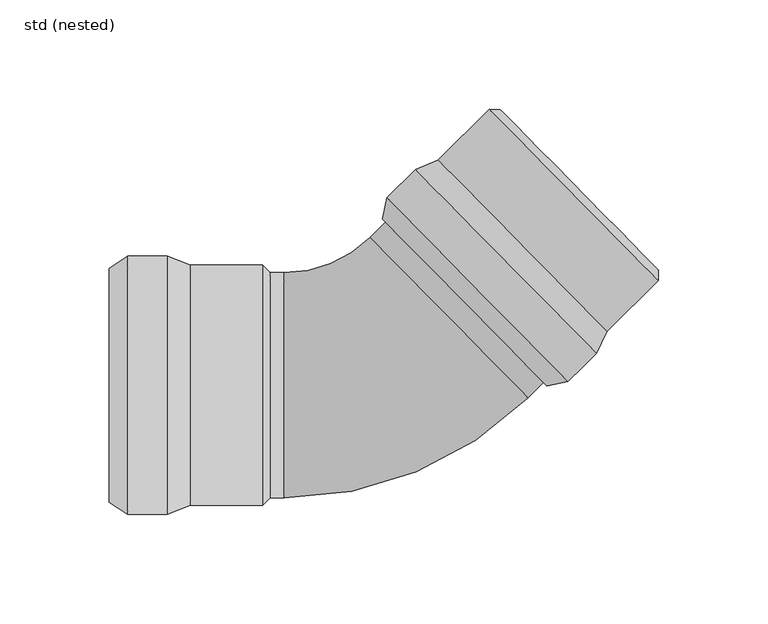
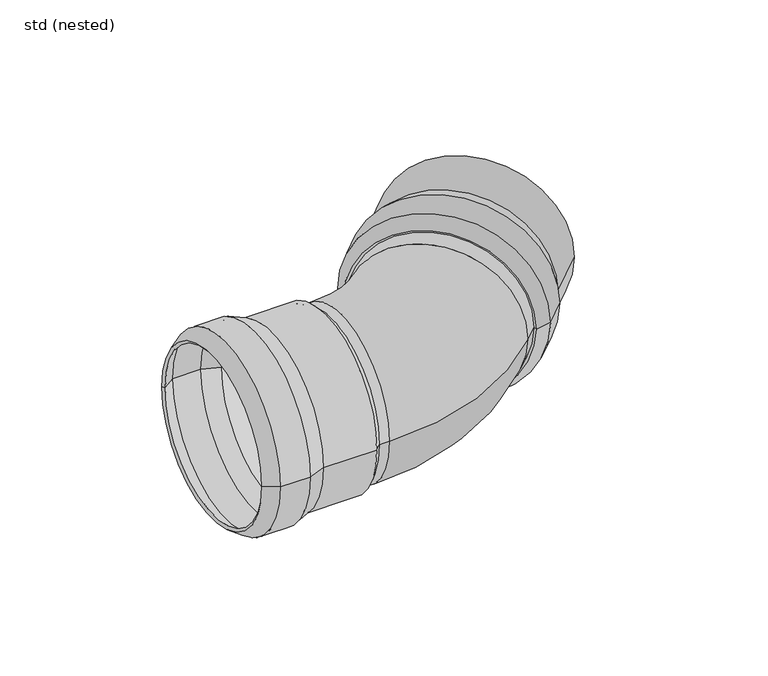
"""IFC4 building model written with IfcOpenShell, lengths in millimetres: pipe fitting geometry, ZZZ_do not use_PIF_ST_UN_GM-X pipe bend_ACO : std (nested)."""

from ifc_helpers import new_model, si_unit, point, frame, origin, place, context, project, spatial, polyline, circle_curve, ellipse_curve, trimmed, source, transform, mapped, element, save
from ifc_brep_helpers import plane_surface, cylinder_surface, revolved_surface, advanced_brep


def std_nested_b2d99228(model_context):
    return source(origin(), model_context, "Body", "AdvancedBrep", [
        advanced_brep(
        [(15.9421163, 98.5246108, 0.0), (98.7526335, 14.4626202, 0.0), (85.78714, 1.6901506, 0.0), (2.9766229, 85.7521412, 0.0), (26.2293449, 103.0437842, 0.0), (103.4255897, 24.6809117, 0.0), (76.0144928, -0.2165133, 0.0), (0.9236002, 76.00919, 0.0), (49.7382067, 126.2026577, 0.0), (126.9344514, 47.8397851, 0.0), (54.6878149, 126.1655377, 0.0), (126.9715714, 52.7893934, 0.0), (52.1944508, 123.7092935, 0.0), (124.4782073, 50.3331492, 0.0), (27.370717, 101.3607122, 0.0), (101.7598256, 25.8473987, 0.0), (125.5308833, 49.2645646, 0.0), (51.1417747, 124.7778782, 0.0), (17.0834885, 96.8415388, 0.0), (97.0868694, 15.6291072, 0.0), (4.8094141, 84.7501948, 0.0), (84.8127951, 3.5377632, 0.0), (2.8806238, 75.5968084, 0.0), (75.6315097, 1.7464752, 0.0)],
        [
            (0, 1, circle_curve(frame((57.3473749, 56.4936155, 0.0), z_axis=(-0.7123897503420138, -0.701784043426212, 0.0), x_axis=(0.7017840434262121, -0.7123897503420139, 0.0)), 59.0)),
            (1, 2),
            (2, 3, circle_curve(frame((44.3818814, 43.7211459, 0.0), z_axis=(0.7123897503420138, 0.701784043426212, 0.0), x_axis=(0.7017840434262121, -0.7123897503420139, 0.0)), 59.0)),
            (3, 0),
            (1, 0, circle_curve(frame((57.3473749, 56.4936155, 0.0), z_axis=(-0.7123897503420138, -0.701784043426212, 0.0), x_axis=(0.7017840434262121, -0.7123897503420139, 0.0)), 59.0)),
            (3, 2, circle_curve(frame((44.3818814, 43.7211459, 0.0), z_axis=(0.7123897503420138, 0.701784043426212, 0.0), x_axis=(0.7017840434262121, -0.7123897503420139, 0.0)), 59.0)),
            (4, 5, circle_curve(frame((64.8274673, 63.862348, 0.0), z_axis=(-0.7123897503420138, -0.701784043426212, 0.0), x_axis=(0.7017840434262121, -0.7123897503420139, 0.0)), 55.0)),
            (5, 1),
            (0, 4),
            (5, 4, circle_curve(frame((64.8274673, 63.862348, 0.0), z_axis=(-0.7123897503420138, -0.701784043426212, 0.0), x_axis=(0.7017840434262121, -0.7123897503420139, 0.0)), 55.0)),
            (2, 6),
            (6, 7, circle_curve(frame((38.4690465, 37.8963383, 0.0), z_axis=(0.7123897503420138, 0.701784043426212, 0.0), x_axis=(0.7017840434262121, -0.7123897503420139, 0.0)), 53.5)),
            (7, 3),
            (7, 6, circle_curve(frame((38.4690465, 37.8963383, 0.0), z_axis=(0.7123897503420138, 0.701784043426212, 0.0), x_axis=(0.7017840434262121, -0.7123897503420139, 0.0)), 53.5)),
            (8, 9, circle_curve(frame((88.336329, 87.0212214, 0.0), z_axis=(-0.7123897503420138, -0.701784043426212, 0.0), x_axis=(0.7017840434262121, -0.7123897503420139, 0.0)), 55.0)),
            (9, 5),
            (4, 8),
            (9, 8, circle_curve(frame((88.336329, 87.0212214, 0.0), z_axis=(-0.7123897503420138, -0.701784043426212, 0.0), x_axis=(0.7017840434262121, -0.7123897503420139, 0.0)), 55.0)),
            (10, 11, circle_curve(frame((90.8296932, 89.4774655, 0.0), z_axis=(-0.7123897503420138, -0.701784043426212, 0.0), x_axis=(0.7017840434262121, -0.7123897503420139, 0.0)), 51.5)),
            (11, 9),
            (8, 10),
            (11, 10, circle_curve(frame((90.8296932, 89.4774655, 0.0), z_axis=(-0.7123897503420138, -0.701784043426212, 0.0), x_axis=(0.7017840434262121, -0.7123897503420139, 0.0)), 51.5)),
            (12, 13, circle_curve(frame((88.336329, 87.0212214, 0.0), z_axis=(-0.7123897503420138, -0.701784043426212, 0.0), x_axis=(0.7017840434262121, -0.7123897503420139, 0.0)), 51.5)),
            (13, 11),
            (10, 12),
            (13, 12, circle_curve(frame((88.336329, 87.0212214, 0.0), z_axis=(-0.7123897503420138, -0.701784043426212, 0.0), x_axis=(0.7017840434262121, -0.7123897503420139, 0.0)), 51.5)),
            (14, 15, circle_curve(frame((64.5652713, 63.6040554, 0.0), z_axis=(-0.7123897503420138, -0.701784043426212, 0.0), x_axis=(0.7017840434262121, -0.7123897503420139, 0.0)), 53.0)),
            (15, 16),
            (16, 17, circle_curve(frame((88.336329, 87.0212214, 0.0), z_axis=(0.7123897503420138, 0.701784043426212, 0.0), x_axis=(0.7017840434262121, -0.7123897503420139, 0.0)), 53.0)),
            (17, 14),
            (15, 14, circle_curve(frame((64.5652713, 63.6040554, 0.0), z_axis=(-0.7123897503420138, -0.701784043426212, 0.0), x_axis=(0.7017840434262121, -0.7123897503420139, 0.0)), 53.0)),
            (17, 16, circle_curve(frame((88.336329, 87.0212214, 0.0), z_axis=(0.7123897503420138, 0.701784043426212, 0.0), x_axis=(0.7017840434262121, -0.7123897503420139, 0.0)), 53.0)),
            (18, 19, circle_curve(frame((57.085179, 56.235323, 0.0), z_axis=(-0.7123897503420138, -0.701784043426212, 0.0), x_axis=(0.7017840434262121, -0.7123897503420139, 0.0)), 57.0)),
            (19, 15),
            (14, 18),
            (19, 18, circle_curve(frame((57.085179, 56.235323, 0.0), z_axis=(-0.7123897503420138, -0.701784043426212, 0.0), x_axis=(0.7017840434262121, -0.7123897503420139, 0.0)), 57.0)),
            (20, 21, circle_curve(frame((44.8111046, 44.143979, 0.0), z_axis=(-0.7123897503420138, -0.701784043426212, 0.0), x_axis=(0.7017840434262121, -0.7123897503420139, 0.0)), 57.0)),
            (21, 19),
            (18, 20),
            (21, 20, circle_curve(frame((44.8111046, 44.143979, 0.0), z_axis=(-0.7123897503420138, -0.701784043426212, 0.0), x_axis=(0.7017840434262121, -0.7123897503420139, 0.0)), 57.0)),
            (22, 23, circle_curve(frame((39.2560667, 38.6716418, 0.0), z_axis=(-0.7123897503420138, -0.701784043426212, 0.0), x_axis=(0.7017840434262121, -0.7123897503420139, 0.0)), 51.8328156)),
            (23, 21),
            (20, 22),
            (23, 22, circle_curve(frame((39.2560667, 38.6716418, 0.0), z_axis=(-0.7123897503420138, -0.701784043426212, 0.0), x_axis=(0.7017840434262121, -0.7123897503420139, 0.0)), 51.8328156)),
            (6, 23),
            (22, 7),
            (16, 13),
            (12, 17),
        ],
        [
            cylinder_surface(frame((40.8595332, 40.2512367, 0.0), z_axis=(0.7123897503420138, 0.701784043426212, 0.0), x_axis=(0.7017840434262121, -0.7123897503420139, 0.0)), 59.0),
            revolved_surface(polyline([(98.7526335, 14.4626202, 0.0), (103.4255897, 24.6809117, 0.0)]), (40.8595332, 40.2512367, 0.0), (0.7123897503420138, 0.701784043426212, 0.0)),
            revolved_surface(polyline([(76.0144928, -0.2165133, 0.0), (85.78714, 1.6901506, 0.0)]), (40.8595332, 40.2512367, 0.0), (0.7123897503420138, 0.701784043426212, 0.0)),
            cylinder_surface(frame((40.8595332, 40.2512367, 0.0), z_axis=(0.7123897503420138, 0.701784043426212, 0.0), x_axis=(0.7017840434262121, -0.7123897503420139, 0.0)), 55.0),
            revolved_surface(polyline([(126.9344514, 47.8397851, 0.0), (126.9715714, 52.7893934, 0.0)]), (40.8595332, 40.2512367, 0.0), (0.7123897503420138, 0.701784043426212, 0.0)),
            revolved_surface(polyline([(126.97157137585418, 52.789393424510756, 0.0), (124.47820723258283, 50.333149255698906, 0.0)]), (40.8595332, 40.2512367, 0.0), (0.7123897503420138, 0.701784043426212, 0.0)),
            revolved_surface(polyline([(125.53088331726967, 49.2645646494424, 0.0), (101.7598255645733, 25.847398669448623, 0.0)]), (40.8595332, 40.2512367, 0.0), (0.7123897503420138, 0.701784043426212, 0.0)),
            revolved_surface(polyline([(101.7598256, 25.8473987, 0.0), (97.0868694, 15.6291072, 0.0)]), (40.8595332, 40.2512367, 0.0), (0.7123897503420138, 0.701784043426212, 0.0)),
            revolved_surface(polyline([(97.08686943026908, 15.629107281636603, 0.0), (84.81279504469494, 3.5377632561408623, 0.0)]), (40.8595332, 40.2512367, 0.0), (0.7123897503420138, 0.701784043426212, 0.0)),
            revolved_surface(polyline([(84.8127951, 3.5377632, 0.0), (75.6315097, 1.7464752, 0.0)]), (40.8595332, 40.2512367, 0.0), (0.7123897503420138, 0.701784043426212, 0.0)),
            revolved_surface(polyline([(75.6315097, 1.7464752, 0.0), (76.0144928, -0.2165133, 0.0)]), (40.8595332, 40.2512367, 0.0), (0.7123897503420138, 0.701784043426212, 0.0)),
            plane_surface(frame((88.336329, 87.0212214, 0.0), z_axis=(-0.7123897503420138, -0.701784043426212, 0.0), x_axis=(0.701784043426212, -0.7123897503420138, 0.0))),
        ],
        [
            (0, [[1, 2, 3, 4]]),
            (0, [[5, -4, 6, -2]]),
            (1, [[7, 8, -1, 9]]),
            (1, [[10, -9, -5, -8]]),
            (2, [[-3, 11, 12, 13]]),
            (2, [[-6, -13, 14, -11]]),
            (3, [[15, 16, -7, 17]]),
            (3, [[18, -17, -10, -16]]),
            (4, [[19, 20, -15, 21]]),
            (4, [[22, -21, -18, -20]]),
            (5, [[23, 24, -19, 25]]),
            (5, [[26, -25, -22, -24]]),
            (6, [[27, 28, 29, 30]]),
            (6, [[31, -30, 32, -28]]),
            (7, [[33, 34, -27, 35]]),
            (7, [[36, -35, -31, -34]]),
            (8, [[37, 38, -33, 39]]),
            (8, [[40, -39, -36, -38]]),
            (9, [[41, 42, -37, 43]]),
            (9, [[44, -43, -40, -42]]),
            (10, [[-12, 45, -41, 46]]),
            (10, [[-14, -46, -44, -45]]),
            (11, [[-29, 47, -23, 48]]),
            (11, [[-32, -48, -26, -47]]),
        ],
    ),
        advanced_brep(
        [(-97.5, 59.0, 0.0), (-97.5, -59.0, 0.0), (-115.7, -59.0, 0.0), (-115.7, 59.0, 0.0), (-87.0, 55.0, 0.0), (-87.0, -55.0, 0.0), (-124.0, -53.5, 0.0), (-124.0, 53.5, 0.0), (-54.0, 55.0, 0.0), (-54.0, -55.0, 0.0), (-50.5, 51.5, 0.0), (-50.5, -51.5, 0.0), (-54.0, 51.5, 0.0), (-54.0, -51.5, 0.0), (-87.3680513, 53.0, 0.0), (-87.3680513, -53.0, 0.0), (-54.0, -53.0, 0.0), (-54.0, 53.0, 0.0), (-97.8680513, 57.0, 0.0), (-97.8680513, -57.0, 0.0), (-115.0974883, 57.0, 0.0), (-115.0974883, -57.0, 0.0), (-122.8952393, 51.8328156, 0.0), (-122.8952393, -51.8328156, 0.0)],
        [
            (0, 1, circle_curve(frame((-97.5, 0.0, 0.0), z_axis=(-1.0, 0.0, 0.0), x_axis=(0.0, -1.0, 0.0)), 59.0)),
            (1, 2),
            (2, 3, circle_curve(frame((-115.7, 0.0, 0.0), z_axis=(1.0, 0.0, 0.0), x_axis=(0.0, -1.0, 0.0)), 59.0)),
            (3, 0),
            (1, 0, circle_curve(frame((-97.5, 0.0, 0.0), z_axis=(-1.0, 0.0, 0.0), x_axis=(0.0, -1.0, 0.0)), 59.0)),
            (3, 2, circle_curve(frame((-115.7, 0.0, 0.0), z_axis=(1.0, 0.0, 0.0), x_axis=(0.0, -1.0, 0.0)), 59.0)),
            (4, 5, circle_curve(frame((-87.0, 0.0, 0.0), z_axis=(-1.0, 0.0, 0.0), x_axis=(0.0, -1.0, 0.0)), 55.0)),
            (5, 1),
            (0, 4),
            (5, 4, circle_curve(frame((-87.0, 0.0, 0.0), z_axis=(-1.0, 0.0, 0.0), x_axis=(0.0, -1.0, 0.0)), 55.0)),
            (2, 6),
            (6, 7, circle_curve(frame((-124.0, 0.0, 0.0), z_axis=(1.0, 0.0, 0.0), x_axis=(0.0, -1.0, 0.0)), 53.5)),
            (7, 3),
            (7, 6, circle_curve(frame((-124.0, 0.0, 0.0), z_axis=(1.0, 0.0, 0.0), x_axis=(0.0, -1.0, 0.0)), 53.5)),
            (8, 9, circle_curve(frame((-54.0, 0.0, 0.0), z_axis=(-1.0, 0.0, 0.0), x_axis=(0.0, -1.0, 0.0)), 55.0)),
            (9, 5),
            (4, 8),
            (9, 8, circle_curve(frame((-54.0, 0.0, 0.0), z_axis=(-1.0, 0.0, 0.0), x_axis=(0.0, -1.0, 0.0)), 55.0)),
            (10, 11, circle_curve(frame((-50.5, 0.0, 0.0), z_axis=(-1.0, 0.0, 0.0), x_axis=(0.0, -1.0, 0.0)), 51.5)),
            (11, 9),
            (8, 10),
            (11, 10, circle_curve(frame((-50.5, 0.0, 0.0), z_axis=(-1.0, 0.0, 0.0), x_axis=(0.0, -1.0, 0.0)), 51.5)),
            (12, 13, circle_curve(frame((-54.0, 0.0, 0.0), z_axis=(-1.0, 0.0, 0.0), x_axis=(0.0, -1.0, 0.0)), 51.5)),
            (13, 11),
            (10, 12),
            (13, 12, circle_curve(frame((-54.0, 0.0, 0.0), z_axis=(-1.0, 0.0, 0.0), x_axis=(0.0, -1.0, 0.0)), 51.5)),
            (14, 15, circle_curve(frame((-87.3680513, 0.0, 0.0), z_axis=(-1.0, 0.0, 0.0), x_axis=(0.0, -1.0, 0.0)), 53.0)),
            (15, 16),
            (16, 17, circle_curve(frame((-54.0, 0.0, 0.0), z_axis=(1.0, 0.0, 0.0), x_axis=(0.0, -1.0, 0.0)), 53.0)),
            (17, 14),
            (15, 14, circle_curve(frame((-87.3680513, 0.0, 0.0), z_axis=(-1.0, 0.0, 0.0), x_axis=(0.0, -1.0, 0.0)), 53.0)),
            (17, 16, circle_curve(frame((-54.0, 0.0, 0.0), z_axis=(1.0, 0.0, 0.0), x_axis=(0.0, -1.0, 0.0)), 53.0)),
            (18, 19, circle_curve(frame((-97.8680513, 0.0, 0.0), z_axis=(-1.0, 0.0, 0.0), x_axis=(0.0, -1.0, 0.0)), 57.0)),
            (19, 15),
            (14, 18),
            (19, 18, circle_curve(frame((-97.8680513, 0.0, 0.0), z_axis=(-1.0, 0.0, 0.0), x_axis=(0.0, -1.0, 0.0)), 57.0)),
            (20, 21, circle_curve(frame((-115.0974883, 0.0, 0.0), z_axis=(-1.0, 0.0, 0.0), x_axis=(0.0, -1.0, 0.0)), 57.0)),
            (21, 19),
            (18, 20),
            (21, 20, circle_curve(frame((-115.0974883, 0.0, 0.0), z_axis=(-1.0, 0.0, 0.0), x_axis=(0.0, -1.0, 0.0)), 57.0)),
            (22, 23, circle_curve(frame((-122.8952393, 0.0, 0.0), z_axis=(-1.0, 0.0, 0.0), x_axis=(0.0, -1.0, 0.0)), 51.8328156)),
            (23, 21),
            (20, 22),
            (23, 22, circle_curve(frame((-122.8952393, 0.0, 0.0), z_axis=(-1.0, 0.0, 0.0), x_axis=(0.0, -1.0, 0.0)), 51.8328156)),
            (6, 23),
            (22, 7),
            (16, 13),
            (12, 17),
        ],
        [
            cylinder_surface(frame((-120.6444117, 0.0, 0.0), z_axis=(1.0, 0.0, 0.0), x_axis=(0.0, -1.0, 0.0)), 59.0),
            revolved_surface(polyline([(-97.5, -59.0, 0.0), (-87.0, -55.0, 0.0)]), (-120.6444117, 0.0, 0.0), (1.0, 0.0, 0.0)),
            revolved_surface(polyline([(-124.0, -53.5, 0.0), (-115.7, -59.0, 0.0)]), (-120.6444117, 0.0, 0.0), (1.0, 0.0, 0.0)),
            cylinder_surface(frame((-120.6444117, 0.0, 0.0), z_axis=(1.0, 0.0, 0.0), x_axis=(0.0, -1.0, 0.0)), 55.0),
            revolved_surface(polyline([(-54.0, -55.0, 0.0), (-50.5, -51.5, 0.0)]), (-120.6444117, 0.0, 0.0), (1.0, 0.0, 0.0)),
            revolved_surface(polyline([(-50.5, -51.5, 0.0), (-54.0, -51.5, 0.0)]), (-120.6444117, 0.0, 0.0), (1.0, 0.0, 0.0)),
            revolved_surface(polyline([(-54.0, -53.0, 0.0), (-87.3680513, -53.0, 0.0)]), (-120.6444117, 0.0, 0.0), (1.0, 0.0, 0.0)),
            revolved_surface(polyline([(-87.3680513, -53.0, 0.0), (-97.8680513, -57.0, 0.0)]), (-120.6444117, 0.0, 0.0), (1.0, 0.0, 0.0)),
            revolved_surface(polyline([(-97.8680513, -57.0, 0.0), (-115.0974883, -57.0, 0.0)]), (-120.6444117, 0.0, 0.0), (1.0, 0.0, 0.0)),
            revolved_surface(polyline([(-115.0974883, -57.0, 0.0), (-122.8952393, -51.8328156, 0.0)]), (-120.6444117, 0.0, 0.0), (1.0, 0.0, 0.0)),
            revolved_surface(polyline([(-122.8952393, -51.8328156, 0.0), (-124.0, -53.5, 0.0)]), (-120.6444117, 0.0, 0.0), (1.0, 0.0, 0.0)),
            plane_surface(frame((-54.0, 0.0, 0.0), z_axis=(-1.0, 0.0, 0.0), x_axis=(0.0, -1.0, 0.0))),
        ],
        [
            (0, [[1, 2, 3, 4]]),
            (0, [[5, -4, 6, -2]]),
            (1, [[7, 8, -1, 9]]),
            (1, [[10, -9, -5, -8]]),
            (2, [[-3, 11, 12, 13]]),
            (2, [[-6, -13, 14, -11]]),
            (3, [[15, 16, -7, 17]]),
            (3, [[18, -17, -10, -16]]),
            (4, [[19, 20, -15, 21]]),
            (4, [[22, -21, -18, -20]]),
            (5, [[23, 24, -19, 25]]),
            (5, [[26, -25, -22, -24]]),
            (6, [[27, 28, 29, 30]]),
            (6, [[31, -30, 32, -28]]),
            (7, [[33, 34, -27, 35]]),
            (7, [[36, -35, -31, -34]]),
            (8, [[37, 38, -33, 39]]),
            (8, [[40, -39, -36, -38]]),
            (9, [[41, 42, -37, 43]]),
            (9, [[44, -43, -40, -42]]),
            (10, [[-12, 45, -41, 46]]),
            (10, [[-14, -46, -44, -45]]),
            (11, [[-29, 47, -23, 48]]),
            (11, [[-32, -48, -26, -47]]),
        ],
    ),
        advanced_brep(
        [(-4.7967292, 67.5665701, 0.0), (-44.0, 51.5, 0.0), (-44.0, -51.5, 0.0), (67.4870273, -5.8095742, 0.0), (31.345149, 30.8784979, 51.5), (31.345149, 30.8784979, -51.5), (-54.0, -51.5, 0.0), (-54.0, 51.5, 0.0), (124.4782073, 50.3331492, 0.0), (52.1944508, 123.7092935, 0.0)],
        [
            (0, 1, circle_curve(frame((-44.0, 107.3623, 0.0), z_axis=(0.0, 0.0, -1.0), x_axis=(0.0, -1.0, 0.0)), 55.8623)),
            (1, 2, circle_curve(frame((-44.0, 0.0, 0.0), z_axis=(1.0, 0.0, 0.0), x_axis=(0.0, 1.0, 0.0)), 51.5)),
            (2, 3, circle_curve(frame((-44.0, 107.3623, 0.0), z_axis=(0.0, 0.0, 1.0), x_axis=(0.0, -1.0, 0.0)), 158.8623)),
            (3, 4, circle_curve(frame((31.345149, 30.8784979, 0.0), z_axis=(-0.712389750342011, -0.7017840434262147, 0.0), x_axis=(-0.7017840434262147, 0.712389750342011, 0.0)), 51.5)),
            (4, 0, circle_curve(frame((31.345149, 30.8784979, 0.0), z_axis=(-0.712389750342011, -0.7017840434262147, 0.0), x_axis=(-0.7017840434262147, 0.712389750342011, 0.0)), 51.5)),
            (0, 5, circle_curve(frame((31.345149, 30.8784979, 0.0), z_axis=(-0.712389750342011, -0.7017840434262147, 0.0), x_axis=(-0.7017840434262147, 0.712389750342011, 0.0)), 51.5)),
            (5, 3, circle_curve(frame((31.345149, 30.8784979, 0.0), z_axis=(-0.7123897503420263, -0.7017840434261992, 0.0), x_axis=(-0.7017840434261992, 0.7123897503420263, 0.0)), 51.5)),
            (2, 1, circle_curve(frame((-44.0, 0.0, 0.0), z_axis=(1.0, 0.0, 0.0), x_axis=(0.0, 1.0, 0.0)), 51.5)),
            (6, 7, circle_curve(frame((-54.0, 0.0, 0.0), z_axis=(-1.0, 0.0, 0.0), x_axis=(0.0, 1.0, 0.0)), 51.5)),
            (7, 6, circle_curve(frame((-54.0, 0.0, 0.0), z_axis=(-1.0, 0.0, 0.0), x_axis=(0.0, 1.0, 0.0)), 51.5)),
            (7, 1),
            (2, 6),
            (8, 9, circle_curve(frame((88.336329, 87.0212214, 0.0), z_axis=(0.7123897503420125, 0.7017840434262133, 0.0), x_axis=(-0.7017840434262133, 0.7123897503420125, 0.0)), 51.5)),
            (9, 8, circle_curve(frame((88.336329, 87.0212214, 0.0), z_axis=(0.7123897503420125, 0.7017840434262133, 0.0), x_axis=(-0.7017840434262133, 0.7123897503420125, 0.0)), 51.5)),
            (9, 0),
            (3, 8),
        ],
        [
            revolved_surface(trimmed(ellipse_curve(frame((-44.0, 0.0, 0.0), z_axis=(-1.0, 0.0, 0.0), x_axis=(0.0, 1.0, 0.0)), 51.5, 51.5), [point((-44.0, -51.5, 0.0))], [point((-44.0, 51.5, 0.0))], True, "CARTESIAN"), (-44.0, 107.3623, 0.0), (0.0, 0.0, 1.0)),
            revolved_surface(trimmed(ellipse_curve(frame((-44.0, 0.0, 0.0), z_axis=(-1.0, 0.0, 0.0), x_axis=(0.0, 1.0, 0.0)), 51.5, 51.5), [point((-44.0, 51.5, 0.0))], [point((-44.0, -51.5, 0.0))], True, "CARTESIAN"), (-44.0, 107.3623, 0.0), (0.0, 0.0, 1.0)),
            plane_surface(frame((-54.0, 51.5, 0.0), z_axis=(-1.0, 0.0, 0.0), x_axis=(0.0, 0.0, -1.0))),
            cylinder_surface(frame((-54.0, 0.0, 0.0), z_axis=(1.0, 0.0, 0.0), x_axis=(0.0, 1.0, 0.0)), 51.5),
            plane_surface(frame((88.336329, 87.0212214, 0.0), z_axis=(0.7123897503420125, 0.7017840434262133, 0.0), x_axis=(0.0, 0.0, 1.0))),
            cylinder_surface(frame((31.345149, 30.8784979, 0.0), z_axis=(-0.7123897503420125, -0.7017840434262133, 0.0), x_axis=(-0.7017840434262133, 0.7123897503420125, 0.0)), 51.5),
        ],
        [
            (0, [[1, 2, 3, 4, 5]]),
            (1, [[-1, 6, 7, -3, 8]]),
            (2, [[9, 10]]),
            (3, [[-10, 11, -8, 12]]),
            (3, [[-9, -12, -2, -11]]),
            (4, [[13, 14]]),
            (5, [[-14, 15, -5, -4, 16]]),
            (5, [[-13, -16, -7, -6, -15]]),
        ],
    ),
    ])


if __name__ == "__main__":
    model = new_model("IFC4")
    model_context = context("Model", 3, world=origin())
    ifc_project = project(units=[si_unit("LENGTHUNIT", "METRE", prefix="MILLI")], contexts=[model_context])
    site = spatial("IfcSite", under=ifc_project)
    building = spatial("IfcBuilding", under=site)
    placement = place(None, origin())
    std_nested_shape = std_nested_b2d99228(model_context)
    element("IfcPipeFitting", 1, ObjectType="ZZZ_do not use_PIF_ST_UN_GM-X pipe bend_ACO : std (nested)", at=placement, inside=building, context=model_context, shape_type="MappedRepresentation", body=[
        mapped(std_nested_shape, transform((0.0, 0.0, 0.0), x_axis=(1.0, 0.0, 0.0), y_axis=(0.0, 1.0, 0.0), z_axis=(0.0, 0.0, 1.0))),
    ])
    save(model, "model.ifc")
